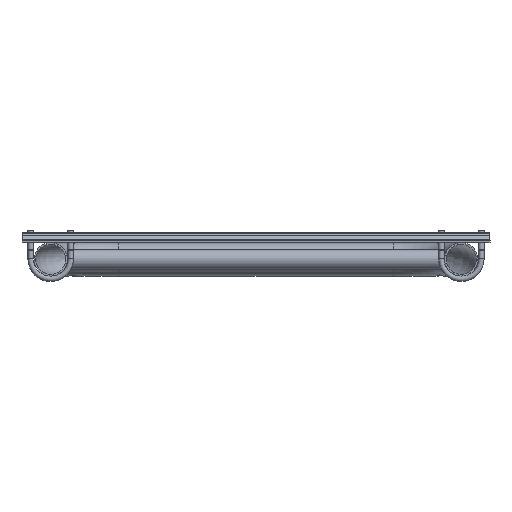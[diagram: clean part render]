
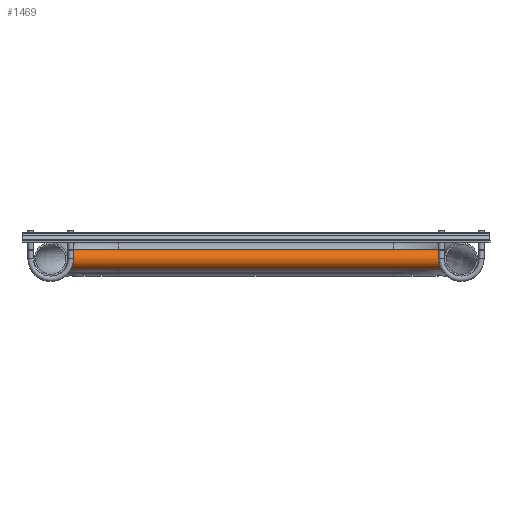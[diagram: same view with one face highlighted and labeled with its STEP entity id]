
A CAD part, front view. The second image highlights one B-rep face of the part: STEP entity #1469.
In plain terms, the highlighted cylindrical face has radius 12.5 mm (diameter 25 mm), a full revolution.
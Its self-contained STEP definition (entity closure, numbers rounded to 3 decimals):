
#1442=CARTESIAN_POINT('',(0.0,0.0,0.0));
#1443=DIRECTION('',(0.0,0.0,1.0));
#1444=DIRECTION('',(-1.0,0.0,0.0));
#1445=AXIS2_PLACEMENT_3D('',#1442,#1443,#1444);
#1446=CYLINDRICAL_SURFACE('',#1445,12.5);
#1447=CARTESIAN_POINT('',(12.5,0.,480.6));
#1448=VERTEX_POINT('',#1447);
#1449=CARTESIAN_POINT('',(0.0,0.0,480.6));
#1450=DIRECTION('',(0.0,0.0,-1.0));
#1451=DIRECTION('',(-1.0,0.0,0.0));
#1452=AXIS2_PLACEMENT_3D('',#1449,#1450,#1451);
#1453=CIRCLE('',#1452,12.5);
#1454=EDGE_CURVE('',#1448,#1448,#1453,.T.);
#1455=ORIENTED_EDGE('',*,*,#1454,.T.);
#1456=EDGE_LOOP('',(#1455));
#1457=FACE_OUTER_BOUND('',#1456,.T.);
#1458=CARTESIAN_POINT('',(12.5,0.,0.0));
#1459=VERTEX_POINT('',#1458);
#1460=CARTESIAN_POINT('',(0.0,0.0,0.0));
#1461=DIRECTION('',(0.0,0.0,-1.0));
#1462=DIRECTION('',(-1.0,0.0,0.0));
#1463=AXIS2_PLACEMENT_3D('',#1460,#1461,#1462);
#1464=CIRCLE('',#1463,12.5);
#1465=EDGE_CURVE('',#1459,#1459,#1464,.T.);
#1466=ORIENTED_EDGE('',*,*,#1465,.F.);
#1467=EDGE_LOOP('',(#1466));
#1468=FACE_BOUND('',#1467,.T.);
#1469=ADVANCED_FACE('',(#1457,#1468),#1446,.T.);
